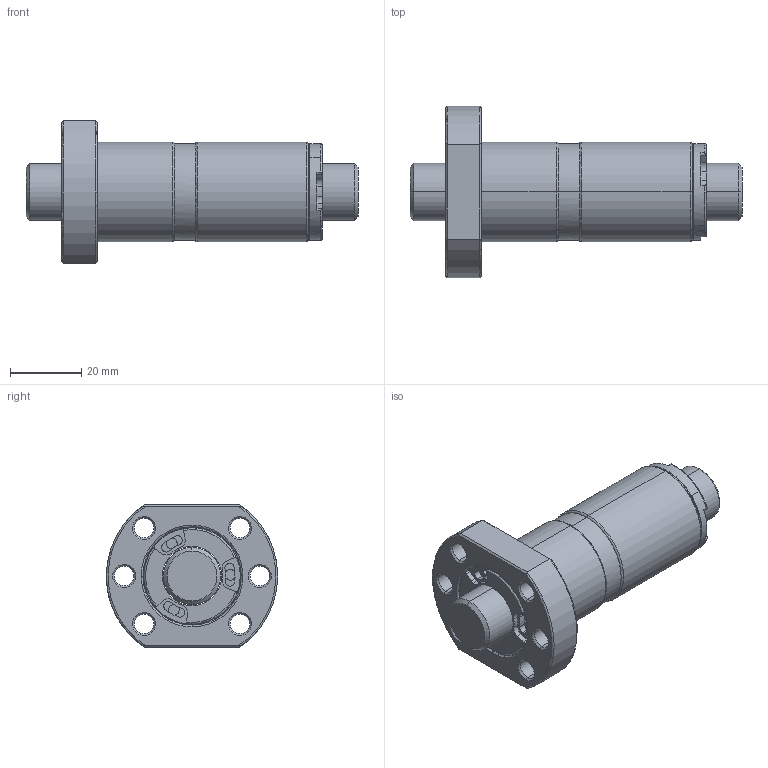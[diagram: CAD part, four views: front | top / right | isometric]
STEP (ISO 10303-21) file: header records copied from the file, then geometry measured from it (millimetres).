
FILE_DESCRIPTION (( 'STEP AP203' ), '1' );
FILE_NAME ('DFSR01605C1D-C.STEP', '2020-06-17T02:12:11', ( '' ), ( '' ), 'SwSTEP 2.0', 'SolidWorks 2013', '' );
FILE_SCHEMA (( 'CONFIG_CONTROL_DESIGN' ));
Length unit declared in the file: millimetre
Products named in the file (1): DFSR01605C1D-C
Bounding box: 93 x 48 x 40 mm (x, y, z)
Volume: 55052.5 mm3; surface area: 20798.2 mm2
Topology: 2 solids, 2 shells, 238 faces, 599 edges, 377 vertices
Faces by surface type: cylinder 120, plane 68, cone 28, torus 20, bspline 2
Entity records: 11020 total; most frequent: CARTESIAN_POINT 5018, DIRECTION 1352, ORIENTED_EDGE 1198, EDGE_CURVE 599, AXIS2_PLACEMENT_3D 570, VERTEX_POINT 377, CIRCLE 333, EDGE_LOOP 268
